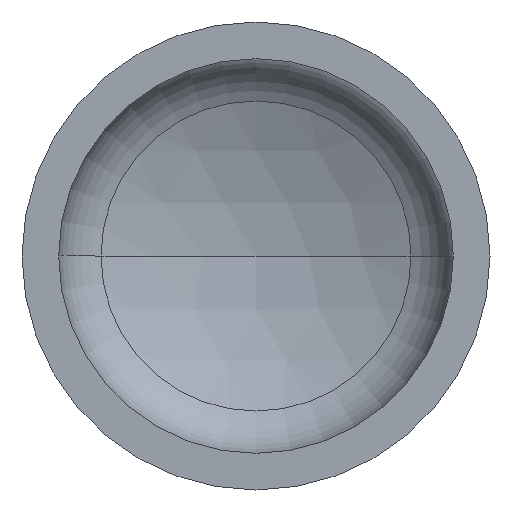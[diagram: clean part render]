
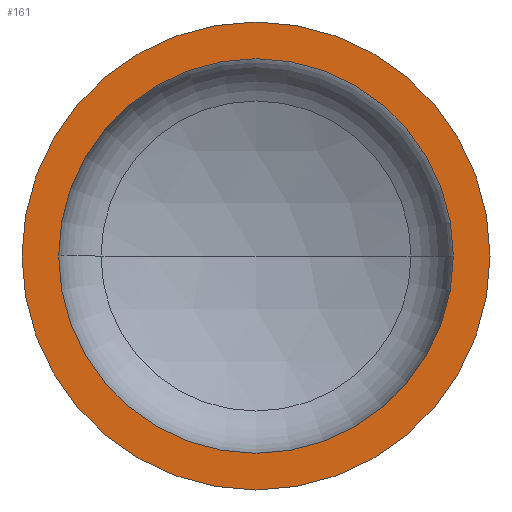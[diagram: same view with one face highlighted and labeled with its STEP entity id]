
A CAD part, front view. The second image highlights one B-rep face of the part: STEP entity #161.
In plain terms, the highlighted planar face has unit normal (0, -1, 0).
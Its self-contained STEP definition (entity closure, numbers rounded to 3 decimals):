
#2 = ORIENTED_EDGE ( 'NONE', *, *, #184, .T. ) ;
#7 = EDGE_LOOP ( 'NONE', ( #38, #2 ) ) ;
#12 = AXIS2_PLACEMENT_3D ( 'NONE', #374, #240, #396 ) ;
#14 = VERTEX_POINT ( 'NONE', #294 ) ;
#23 = ORIENTED_EDGE ( 'NONE', *, *, #185, .F. ) ;
#34 = AXIS2_PLACEMENT_3D ( 'NONE', #231, #140, #151 ) ;
#37 = EDGE_LOOP ( 'NONE', ( #23, #98 ) ) ;
#38 = ORIENTED_EDGE ( 'NONE', *, *, #376, .T. ) ;
#49 = VERTEX_POINT ( 'NONE', #248 ) ;
#63 = VERTEX_POINT ( 'NONE', #258 ) ;
#94 = VERTEX_POINT ( 'NONE', #367 ) ;
#98 = ORIENTED_EDGE ( 'NONE', *, *, #361, .F. ) ;
#129 = FACE_BOUND ( 'NONE', #37, .T. ) ;
#139 = AXIS2_PLACEMENT_3D ( 'NONE', #191, #192, #304 ) ;
#140 = DIRECTION ( 'NONE',  ( 0., -1., 0. ) ) ;
#144 = AXIS2_PLACEMENT_3D ( 'NONE', #318, #301, #300 ) ;
#147 = CIRCLE ( 'NONE', #12, 600. ) ;
#151 = DIRECTION ( 'NONE',  ( 1., 0., 0. ) ) ;
#153 = AXIS2_PLACEMENT_3D ( 'NONE', #340, #331, #329 ) ;
#161 = ADVANCED_FACE ( 'NONE', ( #129, #337 ), #335, .F. ) ;
#184 = EDGE_CURVE ( 'NONE', #94, #63, #328, .T. ) ;
#185 = EDGE_CURVE ( 'NONE', #14, #49, #274, .T. ) ;
#191 = CARTESIAN_POINT ( 'NONE',  ( 0., 0., 0. ) ) ;
#192 = DIRECTION ( 'NONE',  ( 0., -1., 0. ) ) ;
#231 = CARTESIAN_POINT ( 'NONE',  ( 0., 0., 0. ) ) ;
#240 = DIRECTION ( 'NONE',  ( 0., -1., 0. ) ) ;
#248 = CARTESIAN_POINT ( 'NONE',  ( -506., 0., 0. ) ) ;
#258 = CARTESIAN_POINT ( 'NONE',  ( 600., 0., 0. ) ) ;
#274 = CIRCLE ( 'NONE', #139, 506. ) ;
#293 = CIRCLE ( 'NONE', #34, 506. ) ;
#294 = CARTESIAN_POINT ( 'NONE',  ( 506., 0., 0. ) ) ;
#300 = DIRECTION ( 'NONE',  ( 1., 0., 0. ) ) ;
#301 = DIRECTION ( 'NONE',  ( 0., -1., 0. ) ) ;
#304 = DIRECTION ( 'NONE',  ( 1., 0., 0. ) ) ;
#318 = CARTESIAN_POINT ( 'NONE',  ( 0., 0., 0. ) ) ;
#328 = CIRCLE ( 'NONE', #144, 600. ) ;
#329 = DIRECTION ( 'NONE',  ( -1., 0., 0. ) ) ;
#331 = DIRECTION ( 'NONE',  ( 0., 1., 0. ) ) ;
#335 = PLANE ( 'NONE',  #153 ) ;
#337 = FACE_OUTER_BOUND ( 'NONE', #7, .T. ) ;
#340 = CARTESIAN_POINT ( 'NONE',  ( -600., 0., 0. ) ) ;
#361 = EDGE_CURVE ( 'NONE', #49, #14, #293, .T. ) ;
#367 = CARTESIAN_POINT ( 'NONE',  ( -600., 0., 0. ) ) ;
#374 = CARTESIAN_POINT ( 'NONE',  ( 0., 0., 0. ) ) ;
#376 = EDGE_CURVE ( 'NONE', #63, #94, #147, .T. ) ;
#396 = DIRECTION ( 'NONE',  ( 1., 0., 0. ) ) ;
